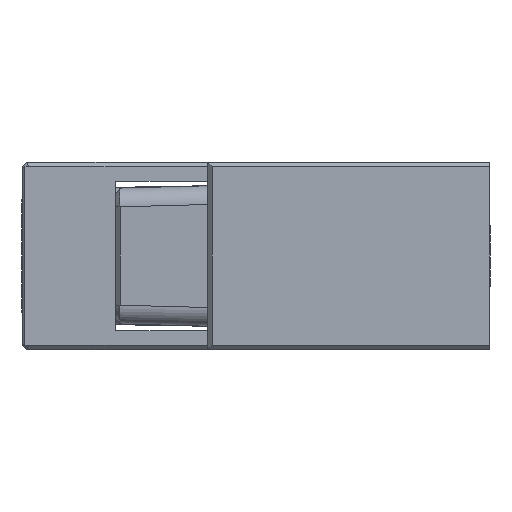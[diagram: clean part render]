
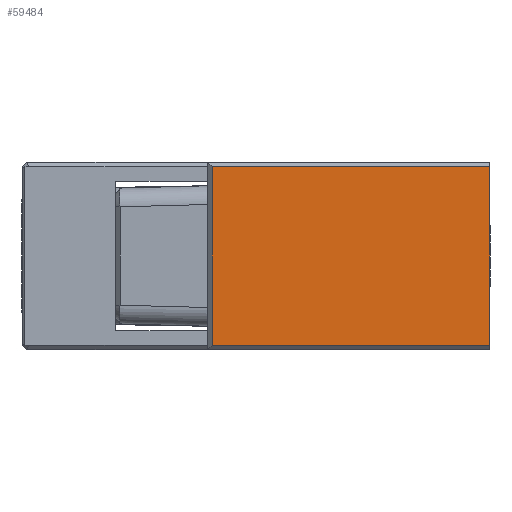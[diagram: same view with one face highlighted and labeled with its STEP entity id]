
A CAD part, left-side view. The second image highlights one B-rep face of the part: STEP entity #59484.
In plain terms, the highlighted planar face has unit normal (-1, 0, 0).
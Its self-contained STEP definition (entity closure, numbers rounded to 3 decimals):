
#3467 = CARTESIAN_POINT ( 'NONE',  ( -129.934, 42.26, 265.55 ) ) ;
#5015 = CARTESIAN_POINT ( 'NONE',  ( -129.934, 42.26, 284.55 ) ) ;
#7448 = ORIENTED_EDGE ( 'NONE', *, *, #7520, .T. ) ;
#7520 = EDGE_CURVE ( 'NONE', #77703, #34112, #49139, .T. ) ;
#9461 = ORIENTED_EDGE ( 'NONE', *, *, #13770, .F. ) ;
#12684 = DIRECTION ( 'NONE',  ( 0., 0., -1. ) ) ;
#13770 = EDGE_CURVE ( 'NONE', #101736, #78497, #95745, .T. ) ;
#14578 = PLANE ( 'NONE',  #117723 ) ;
#14836 = EDGE_CURVE ( 'NONE', #34112, #78497, #43899, .T. ) ;
#19467 = LINE ( 'NONE', #45704, #61066 ) ;
#24220 = DIRECTION ( 'NONE',  ( -1., 0., 0. ) ) ;
#34112 = VERTEX_POINT ( 'NONE', #3467 ) ;
#36063 = CARTESIAN_POINT ( 'NONE',  ( -129.934, 12.61, 265.55 ) ) ;
#39083 = EDGE_LOOP ( 'NONE', ( #118633, #7448, #89574, #9461 ) ) ;
#43899 = LINE ( 'NONE', #49548, #116770 ) ;
#45704 = CARTESIAN_POINT ( 'NONE',  ( -129.934, -7.545, 284.55 ) ) ;
#49139 = LINE ( 'NONE', #58515, #99095 ) ;
#49548 = CARTESIAN_POINT ( 'NONE',  ( -129.934, -7.545, 265.55 ) ) ;
#58515 = CARTESIAN_POINT ( 'NONE',  ( -129.934, 42.26, 265.05 ) ) ;
#59484 = ADVANCED_FACE ( 'NONE', ( #67066 ), #14578, .T. ) ;
#60238 = EDGE_CURVE ( 'NONE', #101736, #77703, #19467, .T. ) ;
#61066 = VECTOR ( 'NONE', #100008, 1000. ) ;
#65787 = VECTOR ( 'NONE', #12684, 1000. ) ;
#67066 = FACE_OUTER_BOUND ( 'NONE', #39083, .T. ) ;
#76319 = CARTESIAN_POINT ( 'NONE',  ( -129.934, 12.61, 265.05 ) ) ;
#77214 = DIRECTION ( 'NONE',  ( 0., 0., -1. ) ) ;
#77703 = VERTEX_POINT ( 'NONE', #5015 ) ;
#78497 = VERTEX_POINT ( 'NONE', #36063 ) ;
#89574 = ORIENTED_EDGE ( 'NONE', *, *, #14836, .T. ) ;
#95745 = LINE ( 'NONE', #76319, #65787 ) ;
#99095 = VECTOR ( 'NONE', #77214, 1000. ) ;
#100008 = DIRECTION ( 'NONE',  ( 0., 1., 0. ) ) ;
#101736 = VERTEX_POINT ( 'NONE', #108527 ) ;
#105015 = DIRECTION ( 'NONE',  ( 0., -1., 0. ) ) ;
#106618 = CARTESIAN_POINT ( 'NONE',  ( -129.934, -7.545, 265.05 ) ) ;
#108527 = CARTESIAN_POINT ( 'NONE',  ( -129.934, 12.61, 284.55 ) ) ;
#116575 = DIRECTION ( 'NONE',  ( 0., 0., 1. ) ) ;
#116770 = VECTOR ( 'NONE', #105015, 1000. ) ;
#117723 = AXIS2_PLACEMENT_3D ( 'NONE', #106618, #24220, #116575 ) ;
#118633 = ORIENTED_EDGE ( 'NONE', *, *, #60238, .T. ) ;
